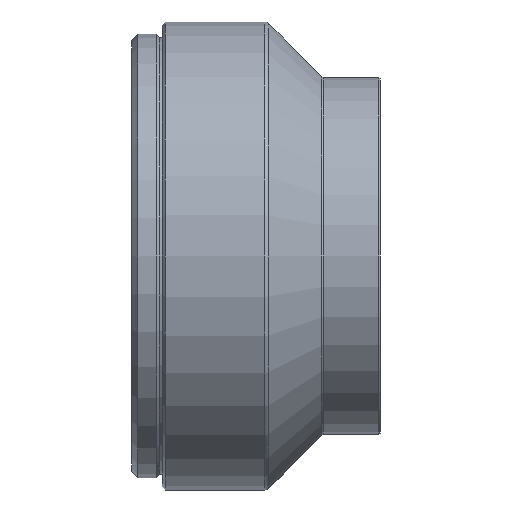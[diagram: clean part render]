
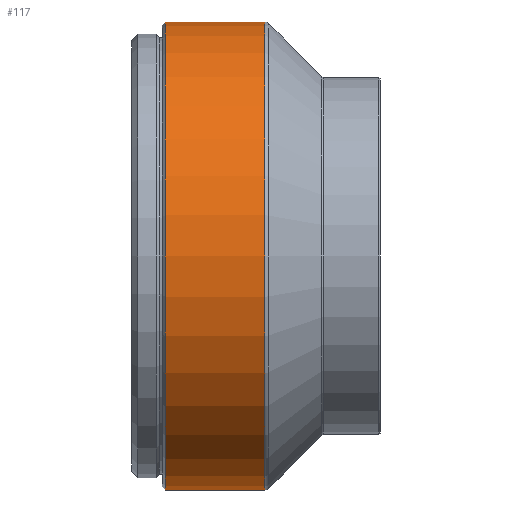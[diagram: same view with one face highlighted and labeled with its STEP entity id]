
A CAD part, front view. The second image highlights one B-rep face of the part: STEP entity #117.
In plain terms, the highlighted cylindrical face has radius 38 mm (diameter 76 mm), a partial arc.
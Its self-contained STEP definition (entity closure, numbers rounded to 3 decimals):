
#38 = EDGE_CURVE ( 'NONE', #290, #193, #1352, .T. ) ;
#110 = CIRCLE ( 'NONE', #584, 38. ) ;
#117 = ADVANCED_FACE ( 'NONE', ( #255 ), #2067, .T. ) ;
#193 = VERTEX_POINT ( 'NONE', #781 ) ;
#244 = CARTESIAN_POINT ( 'NONE',  ( -18.814, 0., -38. ) ) ;
#255 = FACE_OUTER_BOUND ( 'NONE', #1532, .T. ) ;
#286 = DIRECTION ( 'NONE',  ( -1., 0., 0. ) ) ;
#290 = VERTEX_POINT ( 'NONE', #244 ) ;
#309 = EDGE_CURVE ( 'NONE', #2158, #193, #110, .T. ) ;
#397 = CARTESIAN_POINT ( 'NONE',  ( -18.814, 0., 0. ) ) ;
#584 = AXIS2_PLACEMENT_3D ( 'NONE', #1630, #1453, #2125 ) ;
#665 = VECTOR ( 'NONE', #1794, 1000. ) ;
#714 = AXIS2_PLACEMENT_3D ( 'NONE', #397, #1789, #1592 ) ;
#745 = CARTESIAN_POINT ( 'NONE',  ( -53.795, 0., 0. ) ) ;
#781 = CARTESIAN_POINT ( 'NONE',  ( -34.9, 0., -38. ) ) ;
#880 = ORIENTED_EDGE ( 'NONE', *, *, #309, .T. ) ;
#940 = CARTESIAN_POINT ( 'NONE',  ( -53.795, 0., 38. ) ) ;
#1162 = CARTESIAN_POINT ( 'NONE',  ( -53.795, 0., -38. ) ) ;
#1211 = ORIENTED_EDGE ( 'NONE', *, *, #1359, .T. ) ;
#1352 = LINE ( 'NONE', #1162, #1915 ) ;
#1359 = EDGE_CURVE ( 'NONE', #290, #2066, #1525, .T. ) ;
#1453 = DIRECTION ( 'NONE',  ( 1., 0., 0. ) ) ;
#1455 = EDGE_CURVE ( 'NONE', #2066, #2158, #2031, .T. ) ;
#1525 = CIRCLE ( 'NONE', #714, 38. ) ;
#1532 = EDGE_LOOP ( 'NONE', ( #1716, #1211, #2109, #880 ) ) ;
#1592 = DIRECTION ( 'NONE',  ( 0., 0., -1. ) ) ;
#1630 = CARTESIAN_POINT ( 'NONE',  ( -34.9, 0., 0. ) ) ;
#1706 = CARTESIAN_POINT ( 'NONE',  ( -34.9, 0., 38. ) ) ;
#1716 = ORIENTED_EDGE ( 'NONE', *, *, #38, .F. ) ;
#1789 = DIRECTION ( 'NONE',  ( -1., 0., 0. ) ) ;
#1794 = DIRECTION ( 'NONE',  ( -1., 0., 0. ) ) ;
#1832 = DIRECTION ( 'NONE',  ( 0., 0., 1. ) ) ;
#1915 = VECTOR ( 'NONE', #286, 1000. ) ;
#1969 = AXIS2_PLACEMENT_3D ( 'NONE', #745, #1998, #1832 ) ;
#1998 = DIRECTION ( 'NONE',  ( -1., 0., 0. ) ) ;
#2031 = LINE ( 'NONE', #940, #665 ) ;
#2066 = VERTEX_POINT ( 'NONE', #2127 ) ;
#2067 = CYLINDRICAL_SURFACE ( 'NONE', #1969, 38. ) ;
#2109 = ORIENTED_EDGE ( 'NONE', *, *, #1455, .T. ) ;
#2125 = DIRECTION ( 'NONE',  ( 0., 0., -1. ) ) ;
#2127 = CARTESIAN_POINT ( 'NONE',  ( -18.814, 0., 38. ) ) ;
#2158 = VERTEX_POINT ( 'NONE', #1706 ) ;
